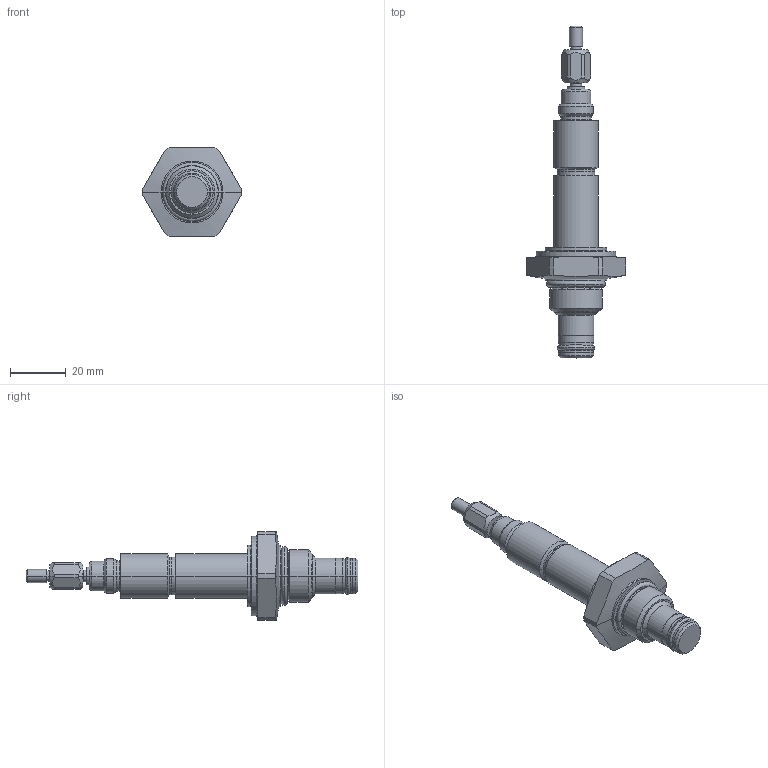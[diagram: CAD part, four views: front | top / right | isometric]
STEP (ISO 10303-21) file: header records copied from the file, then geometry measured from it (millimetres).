
FILE_DESCRIPTION((''),'2;1');
FILE_NAME('5008105_SW0004','2009-03-04T',('jcs'),(''),'PRO/ENGINEER BY PARAMETRIC TECHNOLOGY CORPORATION, 2008010','PRO/ENGINEER BY PARAMETRIC TECHNOLOGY CORPORATION, 2008010','');
FILE_SCHEMA(('CONFIG_CONTROL_DESIGN'));
Length unit declared in the file: inch
Products named in the file (1): 5008105_SW0004
Bounding box: 35.69 x 119.2 x 31.75 mm (x, y, z)
Volume: 25012.2 mm3; surface area: 8562.2 mm2
Topology: 3 solids, 3 shells, 186 faces, 402 edges, 234 vertices
Faces by surface type: cylinder 66, cone 56, plane 30, torus 18, revolution 16
Entity records: 5656 total; most frequent: CARTESIAN_POINT 1494, DIRECTION 934, ORIENTED_EDGE 804, EDGE_CURVE 402, AXIS2_PLACEMENT_3D 392, VERTEX_POINT 234, CIRCLE 222, EDGE_LOOP 202
